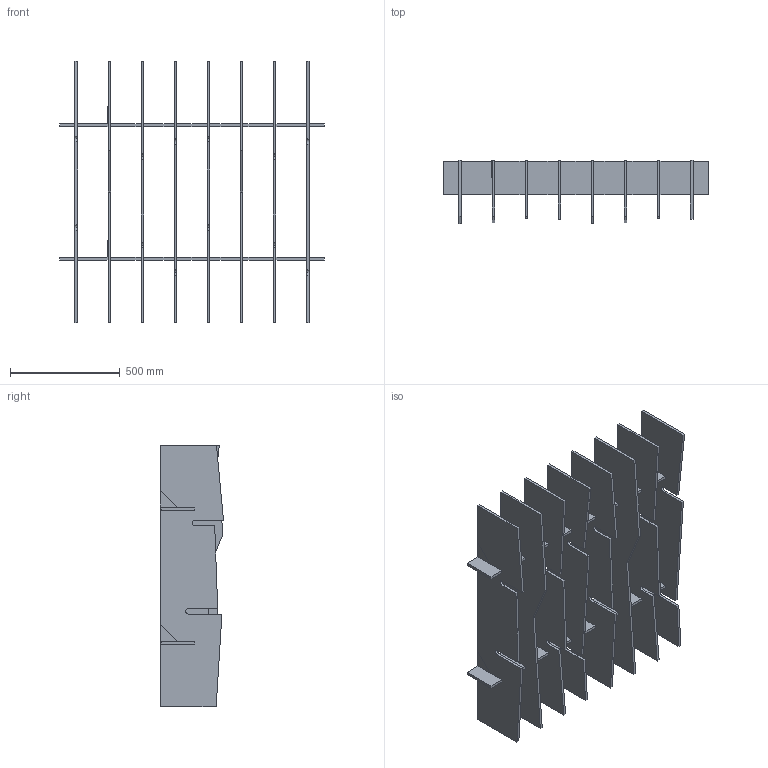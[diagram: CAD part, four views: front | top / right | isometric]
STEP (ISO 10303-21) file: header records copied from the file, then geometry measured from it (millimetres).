
FILE_DESCRIPTION(/* description */ (''),/* implementation_level */ '2;1');
FILE_NAME(/* name */ 'Y:\Design and Engineering\MaterialLogiq\CAD ASSETS\MASTER\BAFFLE\WEB ASSETS\PET BAFFLE_8FIN_4x4_10_SKYLINE.stp',/* time_stamp */ '2023-11-16T09:47:20-06:00',/* author */ ('Grant Baker'),/* organization */ (''),/* preprocessor_version */ 'ST-DEVELOPER v19',/* originating_system */ 'Autodesk Inventor 2023',/* authorisation */ '');
FILE_SCHEMA (('AUTOMOTIVE_DESIGN { 1 0 10303 214 3 1 1 }'));
Length unit declared in the file: inch
Products named in the file (6): PET BAFFLE_PARAMETRIC_11.02.2023; PET BAFFLE_BEAM; PET BAFFLE_48in_FIN_SKYLINE-1; PET BAFFLE_48in_FIN_SKYLINE-3; PET BAFFLE_48in_FIN_PEAKS-2; PET BAFFLE_48in_FIN_SKYLINE-4
Assembly tree (10 placements, depth 2):
  PET BAFFLE_PARAMETRIC_11.02.2023
    PET BAFFLE_BEAM  x2
    PET BAFFLE_48in_FIN_SKYLINE-1  x2
    PET BAFFLE_48in_FIN_SKYLINE-3  x2
    PET BAFFLE_48in_FIN_PEAKS-2  x2
    PET BAFFLE_48in_FIN_SKYLINE-4  x2
Bounding box: 1206.5 x 287.51 x 1193.8 mm (x, y, z)
Volume: 32884129.8 mm3; surface area: 5864605.2 mm2
Topology: 26 solids, 26 shells, 474 faces, 1266 edges, 844 vertices
Faces by surface type: plane 452, cylinder 22
Entity records: 7504 total; most frequent: CARTESIAN_POINT 1308, ORIENTED_EDGE 1266, DIRECTION 1161, EDGE_CURVE 633, LINE 611, VECTOR 611, VERTEX_POINT 422, AXIS2_PLACEMENT_3D 275
